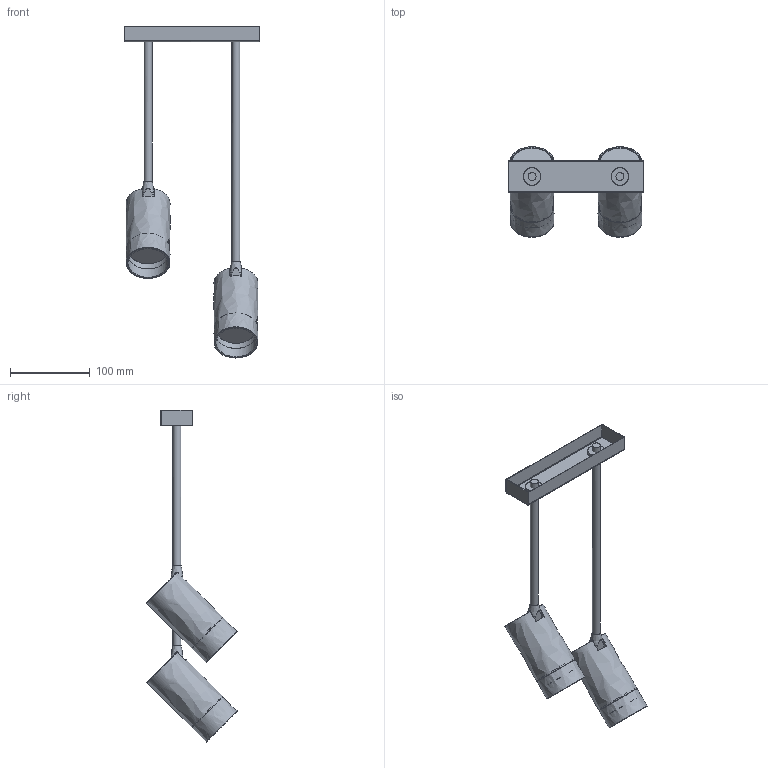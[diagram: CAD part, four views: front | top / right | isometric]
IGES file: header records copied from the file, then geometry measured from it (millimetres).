
Start section: SolidWorks IGES file using NURBS representation for surfaces
Global section: file name: Z:\Modele 3D_WWW\_KOLEKCJE_WWW\MONO\MONO-BELKA-LONG\7672\MONO-LONG-II-GOLD-7672.IGS; native system: SolidWorks 2021; preprocessor: SolidWorks 2021; author: gabriela.tworek; date: 220121.123603; units: millimetre
Bounding box: 170 x 113.14 x 415.32 mm (x, y, z)
Surface area: 154254.9 mm2 (no closed solid volume)
Topology: 0 solids, 0 shells, 138 faces, 772 edges, 746 vertices
Faces by surface type: bspline 138
